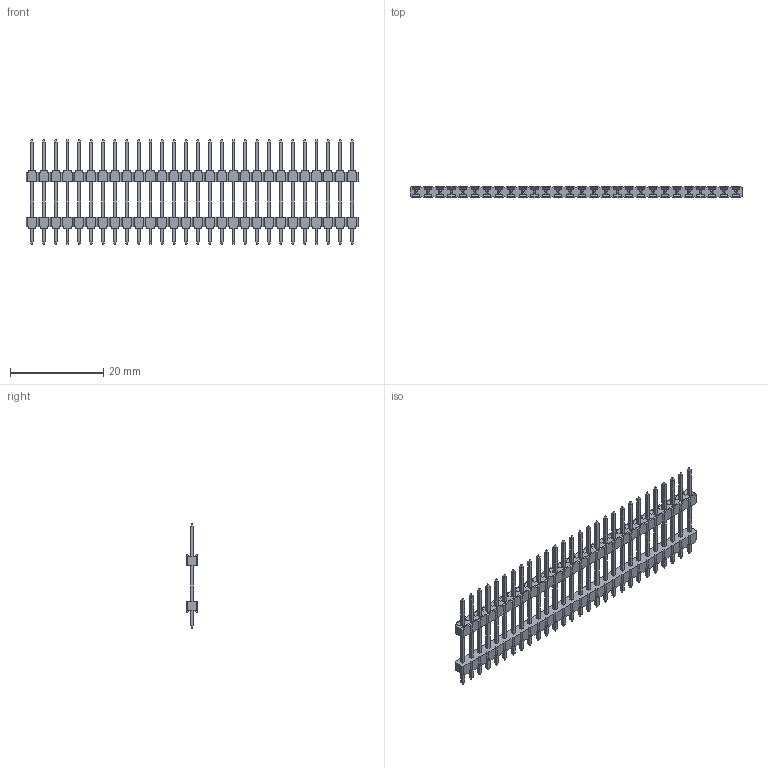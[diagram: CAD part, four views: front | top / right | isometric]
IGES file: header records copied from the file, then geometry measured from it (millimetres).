
Global section: file name: N:\GOLF_VI_2_54mm_UGII\9614XX-X04XX04-XX (TS-2185)\961428-9041204-XX.igs; native system: NX V3.0; preprocessor: UGS NX IGES V4.0; date: 20070618.110609; units: millimetre
Bounding box: 71.12 x 2.5 x 22.4 mm (x, y, z)
Surface area: 2751.9 mm2 (no closed solid volume)
Topology: 0 solids, 0 shells, 1524 faces, 8337 edges, 8337 vertices
Faces by surface type: bspline 1524
